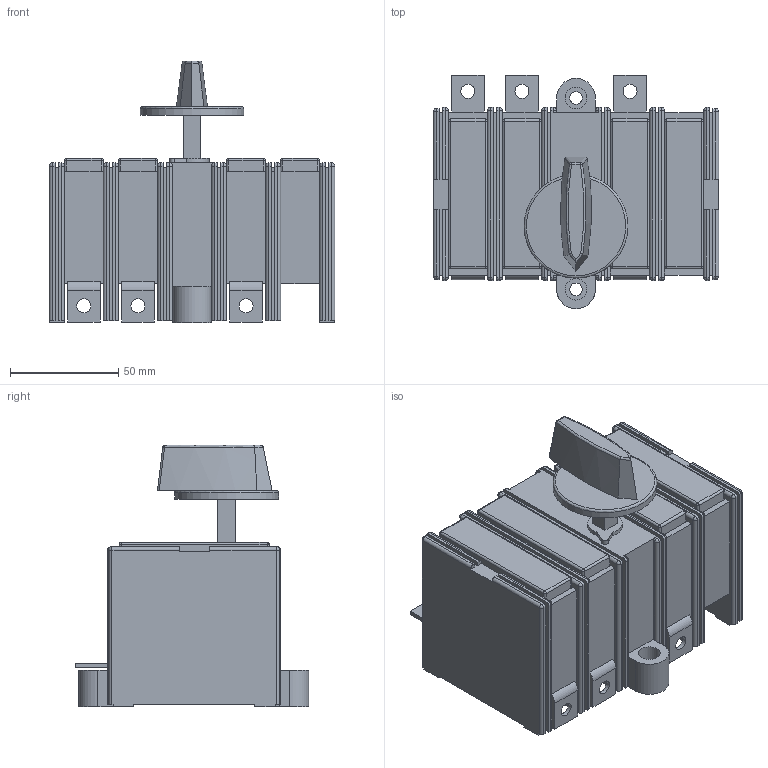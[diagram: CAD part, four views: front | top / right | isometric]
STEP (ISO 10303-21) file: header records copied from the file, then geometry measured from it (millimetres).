
FILE_DESCRIPTION(/* description */ (''),/* implementation_level */ '2;1');
FILE_NAME(/* name */ 'RA100 P3 B-R.stp',/* time_stamp */ '2021-08-17T12:21:44+02:00',/* author */ (''),/* organization */ (''),/* preprocessor_version */ 'ST-DEVELOPER v18.1',/* originating_system */ 'SIEMENS PLM Software NX 1965',/* authorisation */ '');
FILE_SCHEMA (('AP242_MANAGED_MODEL_BASED_3D_ENGINEERING_MIM_LF { 1 0 10303 442 1 1 4 }'));
Length unit declared in the file: millimetre
Products named in the file (1): RA100 P3 B-R_stp
Bounding box: 132 x 108 x 121 mm (x, y, z)
Volume: 676281 mm3; surface area: 82775.8 mm2
Topology: 1 solids, 1 shells, 385 faces, 1027 edges, 607 vertices
Faces by surface type: plane 214, cylinder 122, sphere 41, bspline 7, torus 1
Full cylindrical faces by diameter (mm): 5.8 x2, 6.5 x6, 10 x2, 48 x1
Entity records: 11568 total; most frequent: CARTESIAN_POINT 2185, DIRECTION 1947, ORIENTED_EDGE 1938, EDGE_CURVE 969, LINE 703, VECTOR 703, AXIS2_PLACEMENT_3D 622, VERTEX_POINT 603
